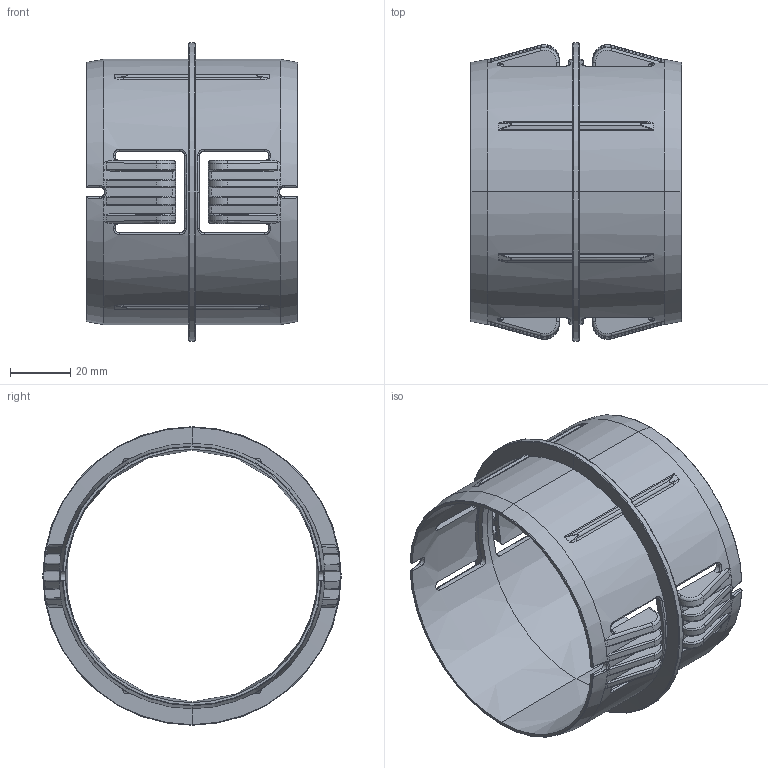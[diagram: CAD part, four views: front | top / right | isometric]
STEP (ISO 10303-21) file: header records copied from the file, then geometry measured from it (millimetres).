
FILE_DESCRIPTION (( 'STEP AP214' ), '1' );
FILE_NAME ('KP_CC-110.STEP', '2023-03-06T07:48:13', ( '' ), ( '' ), 'SwSTEP 2.0', 'SolidWorks 2022', '' );
FILE_SCHEMA (( 'AUTOMOTIVE_DESIGN' ));
Length unit declared in the file: millimetre
Products named in the file (1): KP_CC-110
Bounding box: 70 x 99 x 99 mm (x, y, z)
Volume: 44018.7 mm3; surface area: 43006.8 mm2
Topology: 1 solids, 1 shells, 460 faces, 1154 edges, 690 vertices
Faces by surface type: bspline 210, cone 64, torus 64, plane 64, cylinder 58
Entity records: 22534 total; most frequent: CARTESIAN_POINT 13375, ORIENTED_EDGE 2308, DIRECTION 1408, EDGE_CURVE 1154, VERTEX_POINT 690, AXIS2_PLACEMENT_3D 623, B_SPLINE_CURVE_WITH_KNOTS 604, EDGE_LOOP 464
